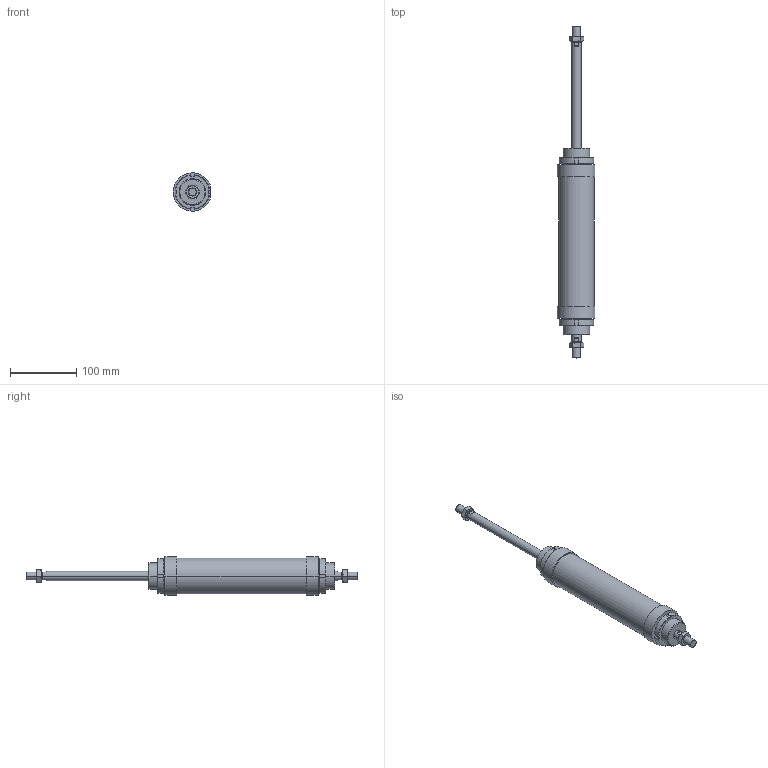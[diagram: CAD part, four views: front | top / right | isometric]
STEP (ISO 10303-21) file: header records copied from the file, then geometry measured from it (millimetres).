
FILE_DESCRIPTION((''),'2;1');
FILE_NAME('I:\DOC-EDP\Lib-3d\1200\CILINDRI\1262\1262_50_0150.stp','2003-04-02T19:15:52',('maffial1'),(''),'Autodesk Inventor (R) 6.0','Autodesk Inventor (R) 6.0','');
FILE_SCHEMA(('AUTOMOTIVE_DESIGN { 1 0 10303 214 1 1 1 1 }'));
Length unit declared in the file: millimetre
Products named in the file (5): 1262_50_0150; S1262_50_150; C1262_50_150; 1200_50_05; 1200_50_06
Assembly tree (6 placements, depth 2):
  1262_50_0150
    S1262_50_150
    C1262_50_150
    1200_50_05  x2
    1200_50_06  x2
Bounding box: 56.6 x 502 x 57.85 mm (x, y, z)
Volume: 654245.1 mm3; surface area: 97821.1 mm2
Topology: 6 solids, 6 shells, 182 faces, 424 edges, 264 vertices
Faces by surface type: plane 66, cone 56, cylinder 30, bspline 30
Entity records: 3737 total; most frequent: CARTESIAN_POINT 969, DIRECTION 572, ORIENTED_EDGE 548, EDGE_CURVE 274, AXIS2_PLACEMENT_3D 227, VERTEX_POINT 172, EDGE_LOOP 136, FACE_OUTER_BOUND 120
